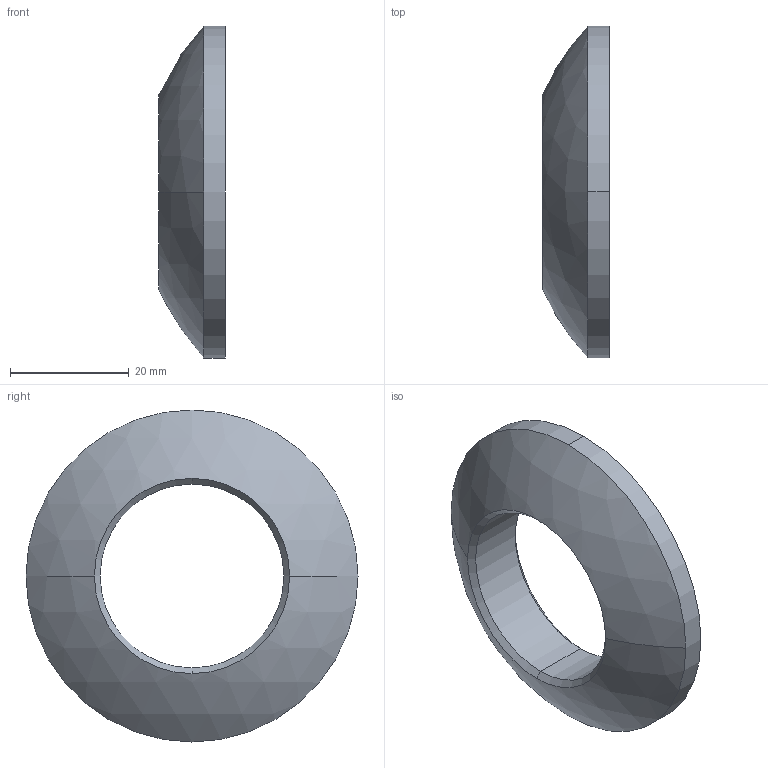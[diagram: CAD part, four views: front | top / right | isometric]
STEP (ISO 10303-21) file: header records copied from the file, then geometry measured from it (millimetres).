
FILE_DESCRIPTION (( 'STEP AP214' ), '1' );
FILE_NAME ('6319-31-C-NI.step', '2021-06-10T06:38:16', ( '' ), ( '' ), 'SwSTEP 2.0', 'SolidWorks 2019', '' );
FILE_SCHEMA (( 'AUTOMOTIVE_DESIGN' ));
Length unit declared in the file: millimetre
Products named in the file (1): 6319-31-C-NI
Bounding box: 11.2 x 56 x 56 mm (x, y, z)
Volume: 13160.2 mm3; surface area: 5388.3 mm2
Topology: 1 solids, 1 shells, 11 faces, 26 edges, 16 vertices
Faces by surface type: cylinder 4, cone 4, sphere 2, plane 1
Entity records: 364 total; most frequent: DIRECTION 68, CARTESIAN_POINT 54, ORIENTED_EDGE 52, AXIS2_PLACEMENT_3D 30, EDGE_CURVE 26, CIRCLE 18, VERTEX_POINT 16, EDGE_LOOP 12
